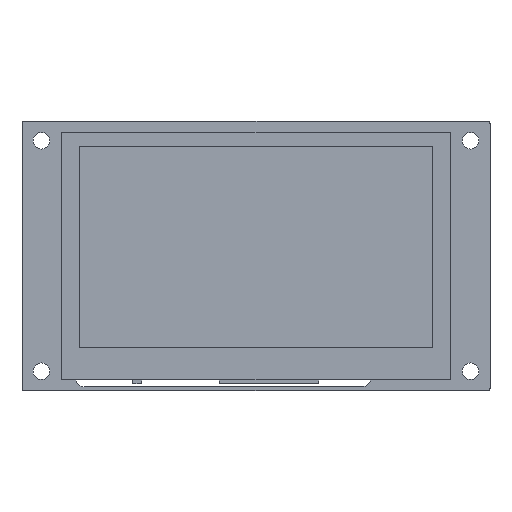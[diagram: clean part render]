
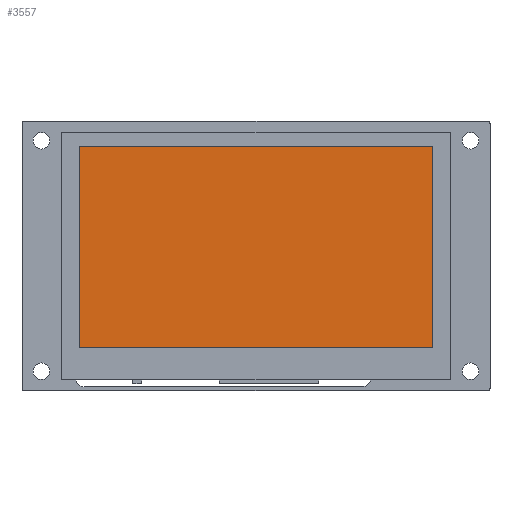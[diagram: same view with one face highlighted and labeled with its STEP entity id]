
A CAD part, top view. The second image highlights one B-rep face of the part: STEP entity #3557.
In plain terms, the highlighted planar face has unit normal (0, 0, 1).
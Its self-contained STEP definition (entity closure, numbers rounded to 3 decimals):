
#3428 = VERTEX_POINT('',#3429);
#3429 = CARTESIAN_POINT('',(-47.92,27.33,5.58));
#3435 = EDGE_CURVE('',#3428,#3436,#3438,.T.);
#3436 = VERTEX_POINT('',#3437);
#3437 = CARTESIAN_POINT('',(-47.92,-27.33,5.58));
#3438 = LINE('',#3439,#3440);
#3439 = CARTESIAN_POINT('',(-47.92,27.33,5.58));
#3440 = VECTOR('',#3441,1.);
#3441 = DIRECTION('',(0.,-1.,0.));
#3466 = EDGE_CURVE('',#3436,#3467,#3469,.T.);
#3467 = VERTEX_POINT('',#3468);
#3468 = CARTESIAN_POINT('',(47.92,-27.33,5.58));
#3469 = LINE('',#3470,#3471);
#3470 = CARTESIAN_POINT('',(-47.92,-27.33,5.58));
#3471 = VECTOR('',#3472,1.);
#3472 = DIRECTION('',(1.,0.,0.));
#3497 = EDGE_CURVE('',#3467,#3498,#3500,.T.);
#3498 = VERTEX_POINT('',#3499);
#3499 = CARTESIAN_POINT('',(47.92,27.33,5.58));
#3500 = LINE('',#3501,#3502);
#3501 = CARTESIAN_POINT('',(47.92,-27.33,5.58));
#3502 = VECTOR('',#3503,1.);
#3503 = DIRECTION('',(0.,1.,0.));
#3528 = EDGE_CURVE('',#3498,#3428,#3529,.T.);
#3529 = LINE('',#3530,#3531);
#3530 = CARTESIAN_POINT('',(47.92,27.33,5.58));
#3531 = VECTOR('',#3532,1.);
#3532 = DIRECTION('',(-1.,0.,0.));
#3557 = ADVANCED_FACE('',(#3558),#3564,.T.);
#3558 = FACE_BOUND('',#3559,.T.);
#3559 = EDGE_LOOP('',(#3560,#3561,#3562,#3563));
#3560 = ORIENTED_EDGE('',*,*,#3435,.T.);
#3561 = ORIENTED_EDGE('',*,*,#3466,.T.);
#3562 = ORIENTED_EDGE('',*,*,#3497,.T.);
#3563 = ORIENTED_EDGE('',*,*,#3528,.T.);
#3564 = PLANE('',#3565);
#3565 = AXIS2_PLACEMENT_3D('',#3566,#3567,#3568);
#3566 = CARTESIAN_POINT('',(0.,0.,
    5.58));
#3567 = DIRECTION('',(0.,0.,1.));
#3568 = DIRECTION('',(1.,0.,-0.));
